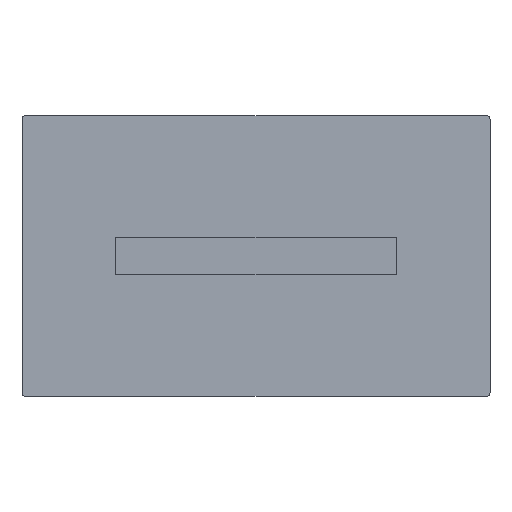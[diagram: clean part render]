
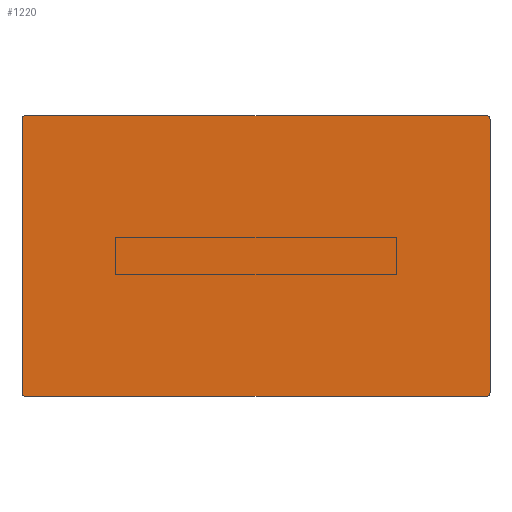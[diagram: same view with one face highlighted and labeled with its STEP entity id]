
A CAD part, front view. The second image highlights one B-rep face of the part: STEP entity #1220.
In plain terms, the highlighted planar face has unit normal (0, -1, 0).
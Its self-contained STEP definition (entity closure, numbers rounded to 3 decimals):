
#140=PLANE('',#1390);
#212=LINE('',#2369,#295);
#218=LINE('',#2389,#301);
#221=LINE('',#2397,#304);
#223=LINE('',#2403,#306);
#295=VECTOR('',#1725,10.);
#301=VECTOR('',#1745,10.);
#304=VECTOR('',#1754,10.);
#306=VECTOR('',#1762,10.);
#402=FACE_OUTER_BOUND('',#495,.T.);
#495=EDGE_LOOP('',(#1123,#1124,#1125,#1126,#1127,#1128,#1129,#1130));
#552=CIRCLE('',#1374,4.);
#557=CIRCLE('',#1382,4.);
#558=CIRCLE('',#1385,4.);
#559=CIRCLE('',#1388,4.);
#650=VERTEX_POINT('',#2356);
#651=VERTEX_POINT('',#2357);
#655=VERTEX_POINT('',#2367);
#661=VERTEX_POINT('',#2383);
#662=VERTEX_POINT('',#2387);
#663=VERTEX_POINT('',#2391);
#664=VERTEX_POINT('',#2395);
#665=VERTEX_POINT('',#2399);
#797=EDGE_CURVE('',#650,#651,#552,.T.);
#803=EDGE_CURVE('',#650,#655,#212,.T.);
#810=EDGE_CURVE('',#661,#655,#557,.T.);
#813=EDGE_CURVE('',#661,#662,#218,.T.);
#814=EDGE_CURVE('',#663,#662,#558,.T.);
#817=EDGE_CURVE('',#663,#664,#221,.T.);
#818=EDGE_CURVE('',#665,#664,#559,.T.);
#820=EDGE_CURVE('',#665,#651,#223,.T.);
#1123=ORIENTED_EDGE('',*,*,#797,.F.);
#1124=ORIENTED_EDGE('',*,*,#803,.T.);
#1125=ORIENTED_EDGE('',*,*,#810,.F.);
#1126=ORIENTED_EDGE('',*,*,#813,.T.);
#1127=ORIENTED_EDGE('',*,*,#814,.F.);
#1128=ORIENTED_EDGE('',*,*,#817,.T.);
#1129=ORIENTED_EDGE('',*,*,#818,.F.);
#1130=ORIENTED_EDGE('',*,*,#820,.T.);
#1220=ADVANCED_FACE('',(#402),#140,.T.);
#1374=AXIS2_PLACEMENT_3D('',#2358,#1715,#1716);
#1382=AXIS2_PLACEMENT_3D('',#2384,#1739,#1740);
#1385=AXIS2_PLACEMENT_3D('',#2392,#1748,#1749);
#1388=AXIS2_PLACEMENT_3D('',#2400,#1757,#1758);
#1390=AXIS2_PLACEMENT_3D('',#2404,#1763,#1764);
#1715=DIRECTION('center_axis',(0.,1.,0.));
#1716=DIRECTION('ref_axis',(0.707,0.,-0.707));
#1725=DIRECTION('',(0.,0.,1.));
#1739=DIRECTION('center_axis',(0.,1.,0.));
#1740=DIRECTION('ref_axis',(0.707,0.,0.707));
#1745=DIRECTION('',(-1.,0.,0.));
#1748=DIRECTION('center_axis',(0.,1.,0.));
#1749=DIRECTION('ref_axis',(-0.707,0.,0.707));
#1754=DIRECTION('',(0.,0.,-1.));
#1757=DIRECTION('center_axis',(0.,1.,0.));
#1758=DIRECTION('ref_axis',(-0.707,0.,-0.707));
#1762=DIRECTION('',(1.,0.,0.));
#1763=DIRECTION('center_axis',(0.,-1.,0.));
#1764=DIRECTION('ref_axis',(0.,0.,-1.));
#2356=CARTESIAN_POINT('',(250.,-702.5,-146.));
#2357=CARTESIAN_POINT('',(246.,-702.5,-150.));
#2358=CARTESIAN_POINT('Origin',(246.,-702.5,-146.));
#2367=CARTESIAN_POINT('',(250.,-702.5,146.));
#2369=CARTESIAN_POINT('',(250.,-702.5,-150.));
#2383=CARTESIAN_POINT('',(246.,-702.5,150.));
#2384=CARTESIAN_POINT('Origin',(246.,-702.5,146.));
#2387=CARTESIAN_POINT('',(-246.,-702.5,150.));
#2389=CARTESIAN_POINT('',(250.,-702.5,150.));
#2391=CARTESIAN_POINT('',(-250.,-702.5,146.));
#2392=CARTESIAN_POINT('Origin',(-246.,-702.5,146.));
#2395=CARTESIAN_POINT('',(-250.,-702.5,-146.));
#2397=CARTESIAN_POINT('',(-250.,-702.5,150.));
#2399=CARTESIAN_POINT('',(-246.,-702.5,-150.));
#2400=CARTESIAN_POINT('Origin',(-246.,-702.5,-146.));
#2403=CARTESIAN_POINT('',(-250.,-702.5,-150.));
#2404=CARTESIAN_POINT('Origin',(0.,-702.5,0.));
